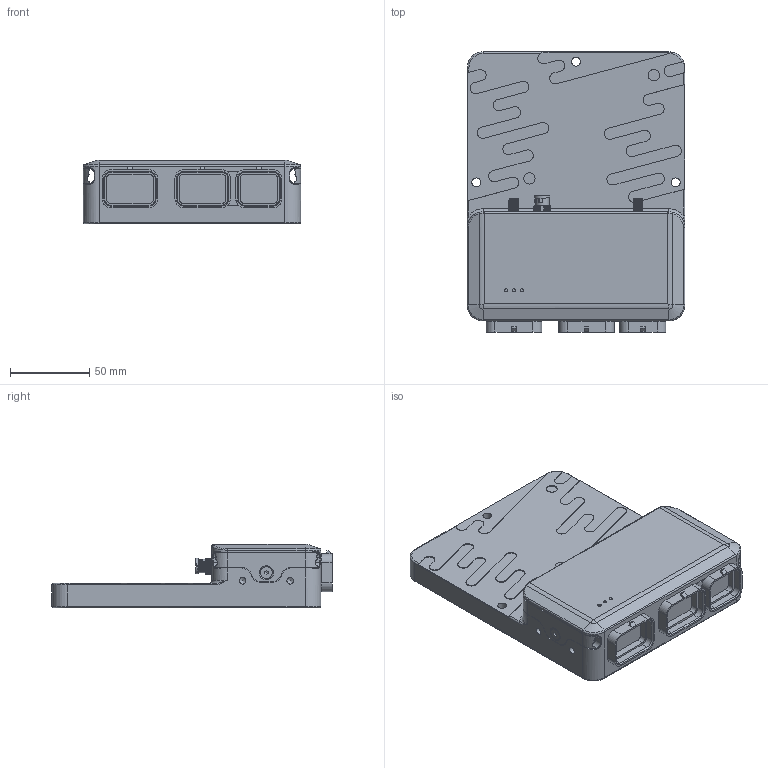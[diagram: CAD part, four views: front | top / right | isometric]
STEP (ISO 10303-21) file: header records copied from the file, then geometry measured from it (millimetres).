
FILE_DESCRIPTION(/* description */ ('STEP AP242','CAx-IF Rec.Pracs.---Representation and Presentation of Product Manufacturing Information (PMI)---4.0---2014-10-13','CAx-IF Rec.Pracs.---3D Tessellated Geometry---0.4---2014-09-14','2;1'),/* implementation_level */ '2;1');
FILE_NAME(/* name */ '66300d975ad3062df06a1a4b',/* time_stamp */ '2024-04-29T21:14:01Z',/* author */ (''),/* organization */ (''),/* preprocessor_version */ 'ST-DEVELOPER v20',/* originating_system */ ' ',/* authorisation */ ' ');
FILE_SCHEMA (('AP242_MANAGED_MODEL_BASED_3D_ENGINEERING_MIM_LF { 1 0 10303 442 1 1 4 }'));
Length unit declared in the file: metre
Products named in the file (4): VOODOO PRO EXTERNAL MODEL; Cable Clamp; Hex socket countersunk head screw M4x0.7 x 6
Assembly tree (5 placements, depth 2):
  VOODOO PRO EXTERNAL MODEL
    Cable Clamp  x2
    Hex socket countersunk head screw M4x0.7 x 6  x2
    VOODOO PRO EXTERNAL MODEL
Bounding box: 137.3 x 177.08 x 40.2 mm (x, y, z)
Volume: 577824.8 mm3; surface area: 83558.7 mm2
Topology: 5 solids, 20 shells, 1089 faces, 2891 edges, 1880 vertices
Faces by surface type: cylinder 474, plane 379, bspline 117, cone 73, torus 40, sphere 6
Full cylindrical faces by diameter (mm): 0.25 x1, 0.8 x6, 1.25 x2, 1.5 x1, 1.7 x6, 2 x3, 2.5 x1, 2.7 x3, 3 x9, 3.3 x3, 3.4 x8, 3.6 x2, 4 x2, 4.2 x4, 4.5 x2, 4.7 x2, 5.3 x2, 5.45 x9, 5.6 x3, 6 x12, 7.1 x4, 7.4 x1, 7.53 x2, 8.5 x1, 10.2 x1, 10.5 x2, 16.2 x2
Entity records: 44521 total; most frequent: CARTESIAN_POINT 16230, ORIENTED_EDGE 5166, DIRECTION 4815, EDGE_CURVE 2583, AXIS2_PLACEMENT_3D 1839, VERTEX_POINT 1766, FACE_BOUND 1299, EDGE_LOOP 1288
